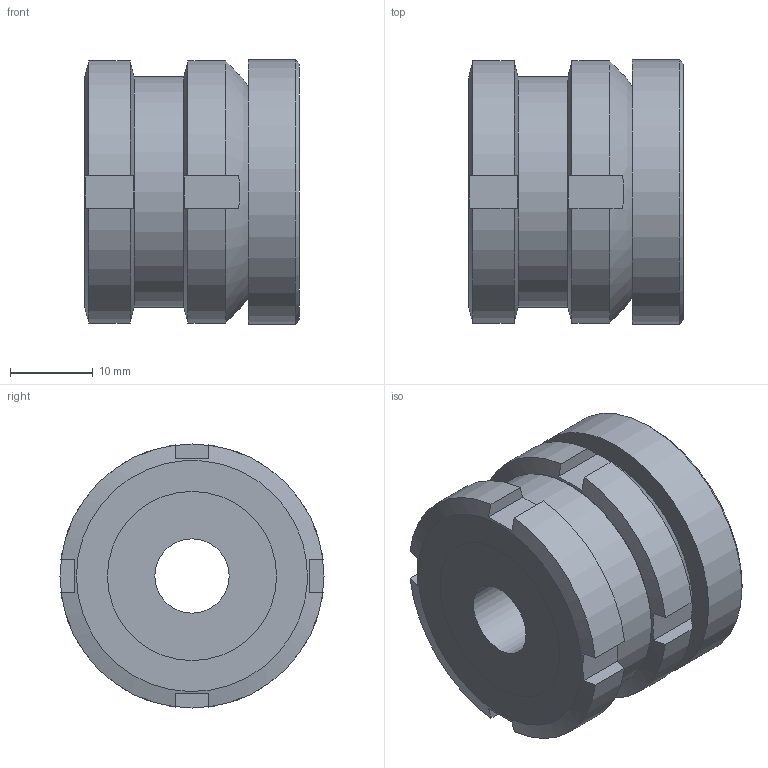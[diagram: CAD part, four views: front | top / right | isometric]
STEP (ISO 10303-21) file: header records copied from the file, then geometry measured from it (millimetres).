
FILE_DESCRIPTION( ( 'STEP AP203' ), '1' );
FILE_NAME( 'C:/Temp/Ganter_Step_05_03_2020/data/3_2/gn350_2/gn_350_2_ni/Stainless Steel-Levelling set GN 350.2-32-9-26-NI (0-0).stp', '2020-03-13T05:28:06', ( 'License CC BY-ND 4.0' ), ( 'CADENAS' ), ' ', 'PARTsolutions', ' ' );
FILE_SCHEMA( ( 'CONFIG_CONTROL_DESIGN' ) );
Length unit declared in the file: millimetre
Products named in the file (4): Stainless Steel-Levelling set GN 350.2-32-9-26-NI (0-0); _Levelling set GN 350.2-32-9-26-ST-G; _Levelling set GN 350.2-32-9-26-ST-K; _Levelling set GN 350.2-32-9-26-ST-P(0)
Assembly tree (3 placements, depth 2):
  Stainless Steel-Levelling set GN 350.2-32-9-26-NI (0-0)
    _Levelling set GN 350.2-32-9-26-ST-G
    _Levelling set GN 350.2-32-9-26-ST-K
    _Levelling set GN 350.2-32-9-26-ST-P(0)
Bounding box: 26 x 32 x 32 mm (x, y, z)
Volume: 17023.4 mm3; surface area: 8817.9 mm2
Topology: 3 solids, 3 shells, 61 faces, 147 edges, 98 vertices
Faces by surface type: plane 36, cylinder 19, cone 4, sphere 2
Full cylindrical faces by diameter (mm): 9 x1, 15 x1, 16.473 x1, 17.5 x1, 18.917 x1, 20 x2, 20.5 x2, 28 x1, 32 x1
Entity records: 1905 total; most frequent: CARTESIAN_POINT 459, DIRECTION 272, ORIENTED_EDGE 246, EDGE_CURVE 123, AXIS2_PLACEMENT_3D 120, VERTEX_POINT 91, EDGE_LOOP 90, FACE_OUTER_BOUND 74
